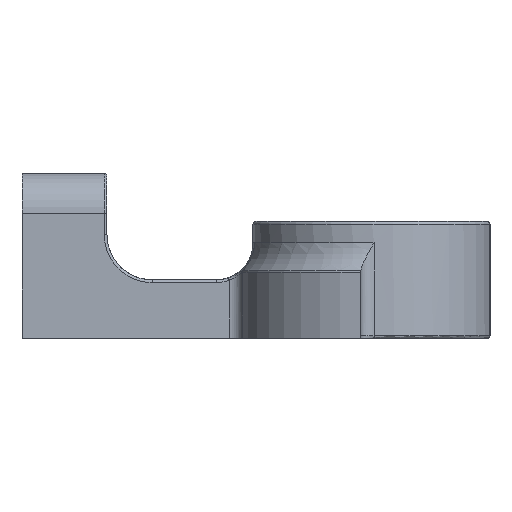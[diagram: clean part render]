
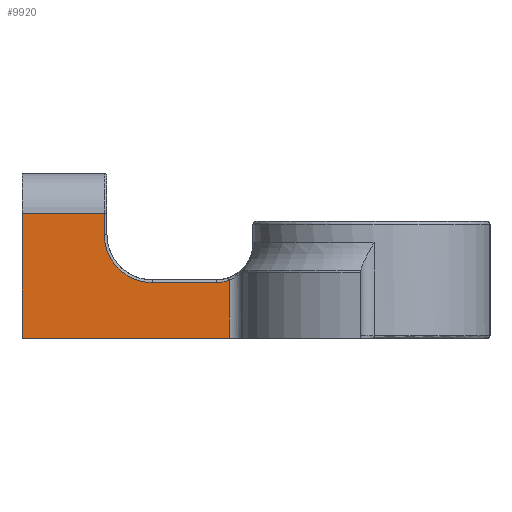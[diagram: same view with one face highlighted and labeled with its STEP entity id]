
A CAD part, left-side view. The second image highlights one B-rep face of the part: STEP entity #9920.
In plain terms, the highlighted planar face has unit normal (-1, 0, 0).
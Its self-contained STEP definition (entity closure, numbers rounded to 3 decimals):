
#370=B_SPLINE_CURVE_WITH_KNOTS('',3,(#15287,#15288,#15289,#15290),
 .UNSPECIFIED.,.F.,.F.,(4,4),(-0.249,0.),
 .UNSPECIFIED.);
#850=CIRCLE('',#10366,9.);
#1887=FACE_OUTER_BOUND('',#2494,.T.);
#2494=EDGE_LOOP('',(#7904,#7905,#7906,#7907,#7908,#7909,#7910,#7911));
#2863=LINE('',#15298,#3366);
#2865=LINE('',#15308,#3368);
#2906=LINE('',#15850,#3409);
#3099=LINE('',#19719,#3602);
#3100=LINE('',#19721,#3603);
#3101=LINE('',#19722,#3604);
#3366=VECTOR('',#11670,10.);
#3368=VECTOR('',#11682,10.);
#3409=VECTOR('',#11909,10.);
#3602=VECTOR('',#12878,10.);
#3603=VECTOR('',#12879,10.);
#3604=VECTOR('',#12880,10.);
#3971=VERTEX_POINT('',#15247);
#3975=VERTEX_POINT('',#15285);
#3976=VERTEX_POINT('',#15296);
#3977=VERTEX_POINT('',#15301);
#3979=VERTEX_POINT('',#15306);
#4060=VERTEX_POINT('',#15849);
#4405=VERTEX_POINT('',#19718);
#4406=VERTEX_POINT('',#19720);
#4974=EDGE_CURVE('',#3975,#3971,#370,.T.);
#4977=EDGE_CURVE('',#3976,#3975,#2863,.T.);
#4980=EDGE_CURVE('',#3977,#3976,#850,.T.);
#4982=EDGE_CURVE('',#3979,#3977,#2865,.T.);
#5111=EDGE_CURVE('',#3971,#4060,#2906,.T.);
#5690=EDGE_CURVE('',#4405,#3979,#3099,.T.);
#5691=EDGE_CURVE('',#4406,#4405,#3100,.T.);
#5692=EDGE_CURVE('',#4406,#4060,#3101,.T.);
#7904=ORIENTED_EDGE('',*,*,#4982,.F.);
#7905=ORIENTED_EDGE('',*,*,#5690,.F.);
#7906=ORIENTED_EDGE('',*,*,#5691,.F.);
#7907=ORIENTED_EDGE('',*,*,#5692,.T.);
#7908=ORIENTED_EDGE('',*,*,#5111,.F.);
#7909=ORIENTED_EDGE('',*,*,#4974,.F.);
#7910=ORIENTED_EDGE('',*,*,#4977,.F.);
#7911=ORIENTED_EDGE('',*,*,#4980,.F.);
#9536=PLANE('',#10849);
#9920=ADVANCED_FACE('',(#1887),#9536,.T.);
#10366=AXIS2_PLACEMENT_3D('',#15303,#11676,#11677);
#10849=AXIS2_PLACEMENT_3D('',#19717,#12876,#12877);
#11670=DIRECTION('',(0.,-1.,0.));
#11676=DIRECTION('center_axis',(-1.,0.,0.));
#11677=DIRECTION('ref_axis',(0.,0.707,-0.707));
#11682=DIRECTION('',(0.,0.,-1.));
#11909=DIRECTION('',(0.,0.,-1.));
#12876=DIRECTION('center_axis',(-1.,0.,0.));
#12877=DIRECTION('ref_axis',(0.,-1.,0.));
#12878=DIRECTION('',(0.,-1.,0.));
#12879=DIRECTION('',(0.,0.,1.));
#12880=DIRECTION('',(0.,-1.,0.));
#15247=CARTESIAN_POINT('',(-2.999,26.945,10.908));
#15285=CARTESIAN_POINT('',(-2.999,29.394,10.5));
#15287=CARTESIAN_POINT('Ctrl Pts',(-2.999,29.394,10.5));
#15288=CARTESIAN_POINT('Ctrl Pts',(-2.999,28.562,10.5));
#15289=CARTESIAN_POINT('Ctrl Pts',(-2.999,27.731,10.638));
#15290=CARTESIAN_POINT('Ctrl Pts',(-2.999,26.945,10.908));
#15296=CARTESIAN_POINT('',(-2.999,41.499,10.5));
#15298=CARTESIAN_POINT('',(-2.999,32.205,10.5));
#15301=CARTESIAN_POINT('',(-2.999,50.499,19.5));
#15303=CARTESIAN_POINT('Origin',(-2.999,41.499,19.5));
#15306=CARTESIAN_POINT('',(-2.999,50.499,23.5));
#15308=CARTESIAN_POINT('',(-2.999,50.499,0.));
#15849=CARTESIAN_POINT('',(-2.999,26.945,0.));
#15850=CARTESIAN_POINT('',(-2.999,26.945,0.));
#19717=CARTESIAN_POINT('Origin',(-2.999,49.999,0.));
#19718=CARTESIAN_POINT('',(-2.999,65.999,23.5));
#19719=CARTESIAN_POINT('',(-2.999,51.499,23.5));
#19720=CARTESIAN_POINT('',(-2.999,65.999,0.));
#19721=CARTESIAN_POINT('',(-2.999,65.999,0.));
#19722=CARTESIAN_POINT('',(-2.999,55.999,0.));
